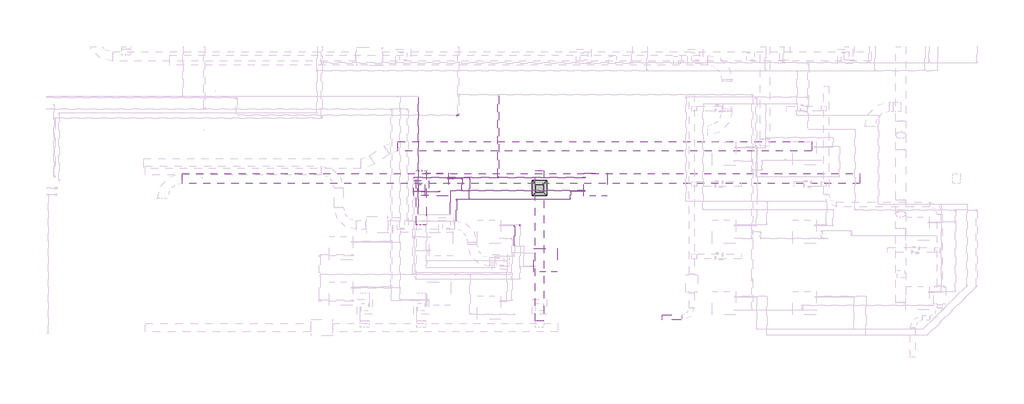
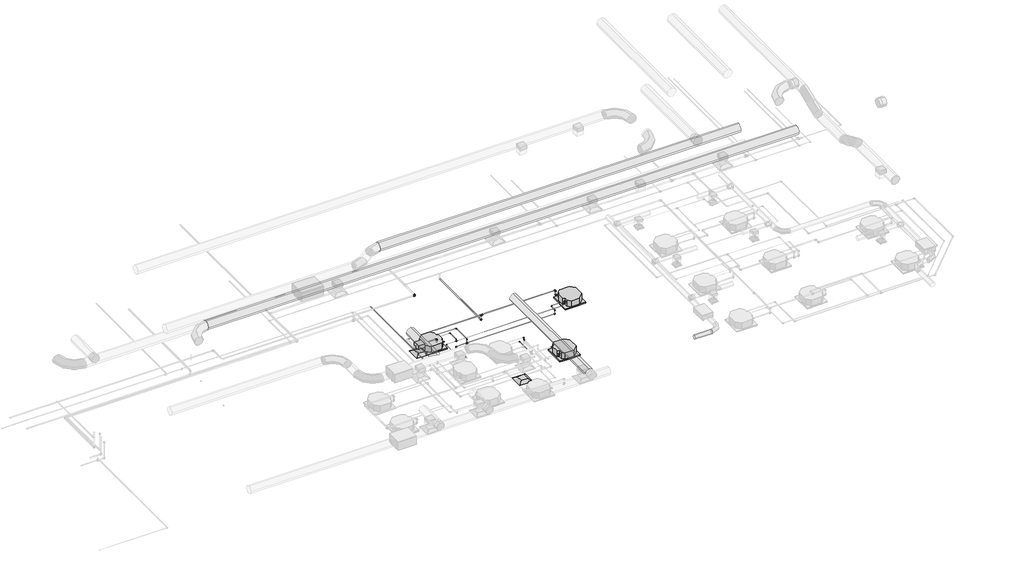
# One storey, part 8 of 21: 31 pipe fittings, 26 pipe segments, 6 duct segments, 3 proxies, 2 air terminals, 1 duct fitting.
"""IFC4 building model written with IfcOpenShell, lengths in millimetres."""

from ifc_helpers import new_model, si_unit, point, frame, frame_2d, origin, place, context, project, spatial, polyline, circle_curve, trimmed, segment, composite_curve, outline, extrude, transform, mapped, element, save
from components import air_terminal_ff221211, mechanical_equipment_53173f38, duct_fitting_95c1ddea, pipe_fitting_144f4440, pipe_fitting_14eb6376, pipe_fitting_c8e70db0, pipe_fitting_a5ff4f7d, pipe_fitting_660e7500, pipe_fitting_5aefb692, pipe_fitting_6af5823a, pipe_fitting_bc7f25b2, pipe_fitting_ac58fc96, pipe_fitting_25c7929a, pipe_fitting_89a6909e, pipe_fitting_c900cfc2, pipe_fitting_16c020f5, pipe_fitting_59d1f3e3, pipe_fitting_648138cd, pipe_fitting_da16c1b3, pipe_fitting_af483176, pipe_fitting_5a6d96d3, pipe_fitting_3e80353c

model = new_model("IFC4")

# Units and contexts
model_context = context("Model", 3, world=origin())
ifc_project = project(units=[si_unit("LENGTHUNIT", "METRE", prefix="MILLI")], contexts=[model_context])

# Site, building, storey
site = spatial("IfcSite", under=ifc_project)
building = spatial("IfcBuilding", under=site)
storey = spatial("IfcBuildingStorey", under=building, Name="Nível 1", Elevation=0.0)

# Air terminals
placement = place(None, origin())
air_terminal_shape = air_terminal_ff221211(model_context)
element("IfcAirTerminal", 1, ObjectType="M_Difusor de retorno : 600 x 600 Face 300 x 300 Conexão", at=placement, inside=storey, context=model_context, shape_type="MappedRepresentation", body=[
    mapped(air_terminal_shape, transform((8288.7294152, -3053.7697994, 3000.0), x_axis=(-1.0, 0.0, 0.0), y_axis=(0.0, -1.0, 0.0), z_axis=(0.0, 0.0, 1.0))),
])
element("IfcAirTerminal", 2, ObjectType="M_Difusor de fornecimento : 600 x 600 Face 300 x 300 Conexão", at=placement, inside=storey, context=model_context, shape_type="MappedRepresentation", body=[
    mapped(air_terminal_shape, transform((13079.0500257, -3053.7697994, 0.0), x_axis=(1.0, 0.0, 0.0), y_axis=(0.0, 1.0, 0.0), z_axis=(0.0, 0.0, 1.0))),
])

# Proxies
mechanical_equipment_shape = mechanical_equipment_53173f38(model_context)
element("IfcBuildingElementProxy", 3, Name="Midea_VRF_Indoor_4-way Cassette_MI-90(100,112,140)Q4_DHN1-D (2nd DC) : MI2-140Q4DHN1", ObjectType="Midea_VRF_Indoor_4-way Cassette_MI-90(100,112,140)Q4_DHN1-D (2nd DC) : MI2-140Q4DHN1", at=placement, inside=storey, context=model_context, shape_type="MappedRepresentation", body=[
    mapped(mechanical_equipment_shape, transform((15355.5954065, -2909.0130524, 3000.0), x_axis=(-1.0, 0.0, 0.0), y_axis=(0.0, -1.0, 0.0), z_axis=(0.0, 0.0, 1.0))),
])
element("IfcBuildingElementProxy", 4, Name="Midea_VRF_Indoor_4-way Cassette_MI-90(100,112,140)Q4_DHN1-D (2nd DC) : MI2-140Q4DHN1", ObjectType="Midea_VRF_Indoor_4-way Cassette_MI-90(100,112,140)Q4_DHN1-D (2nd DC) : MI2-140Q4DHN1", at=placement, inside=storey, context=model_context, shape_type="MappedRepresentation", body=[
    mapped(mechanical_equipment_shape, transform((8918.6436561, -2909.0130524, 3000.0), x_axis=(1.0, 0.0, 0.0), y_axis=(0.0, 1.0, 0.0), z_axis=(0.0, 0.0, 1.0))),
])
element("IfcBuildingElementProxy", 5, Name="Midea_VRF_Indoor_4-way Cassette_MI-90(100,112,140)Q4_DHN1-D (2nd DC) : MI2-140Q4DHN1", ObjectType="Midea_VRF_Indoor_4-way Cassette_MI-90(100,112,140)Q4_DHN1-D (2nd DC) : MI2-140Q4DHN1", at=placement, inside=storey, context=model_context, shape_type="MappedRepresentation", body=[
    mapped(mechanical_equipment_shape, transform((13324.5168986, -5974.366328, 3000.0), x_axis=(-1.0, 0.0, 0.0), y_axis=(0.0, -1.0, 0.0), z_axis=(0.0, 0.0, 1.0))),
])

# Duct fitting
duct_fitting_shape = duct_fitting_95c1ddea(model_context)
element("IfcDuctFitting", 6, ObjectType="M_Encaixe de duto retangular : Padrão", at=placement, inside=storey, context=model_context, shape_type="MappedRepresentation", body=[
    mapped(duct_fitting_shape, transform((8288.7294152, -3053.7697994, 3405.0), x_axis=(0.0, 0.0, -1.0), y_axis=(0.0, 1.0, 0.0), z_axis=(1.0, 0.0, 0.0))),
])

# Duct segments
element("IfcDuctSegment", 7, ObjectType="Torneiras / Raio curto", at=placement, inside=storey, context=model_context, shape_type="SweptSolid", body=[
    extrude(outline(composite_curve([segment(trimmed(circle_curve(frame_2d((3605.0, 13079.0500257)), 177.5), [point((3605.0, 13256.5500257))], [point((3782.5, 13079.0500257))], False, "CARTESIAN"), True, "CONTINUOUS"), segment(trimmed(circle_curve(frame_2d((3605.0, 13079.0500257)), 177.5), [point((3782.5, 13079.0500257))], [point((3605.0, 12901.5500257))], False, "CARTESIAN"), True, "CONTINUOUS"), segment(trimmed(circle_curve(frame_2d((3605.0, 13079.0500257)), 177.5), [point((3605.0, 12901.5500257))], [point((3427.5, 13079.0500257))], False, "CARTESIAN"), True, "CONTINUOUS"), segment(trimmed(circle_curve(frame_2d((3605.0, 13079.0500257)), 177.5), [point((3427.5, 13079.0500257))], [point((3605.0, 13256.5500257))], False, "CARTESIAN"), True, "CONTINUOUS")], self_intersect=False)), frame((0.0, -8432.3180027, 0.0), z_axis=(0.0, 1.0, 0.0), x_axis=(0.0, 0.0, 1.0)), (0.0, 0.0, 1.0), 6088.5482034),
])
element("IfcDuctSegment", 8, ObjectType="Torneiras / Raio curto", at=placement, inside=storey, context=model_context, shape_type="SweptSolid", body=[
    extrude(outline(composite_curve([segment(trimmed(circle_curve(frame_2d((-8298.7123683, 3521.0)), 99.5), [point((-8199.2123683, 3521.0))], [point((-8298.7123683, 3421.5))], False, "CARTESIAN"), True, "CONTINUOUS"), segment(trimmed(circle_curve(frame_2d((-8298.7123683, 3521.0)), 99.5), [point((-8298.7123683, 3421.5))], [point((-8398.2123683, 3521.0))], False, "CARTESIAN"), True, "CONTINUOUS"), segment(trimmed(circle_curve(frame_2d((-8298.7123683, 3521.0)), 99.5), [point((-8398.2123683, 3521.0))], [point((-8298.7123683, 3620.5))], False, "CARTESIAN"), True, "CONTINUOUS"), segment(trimmed(circle_curve(frame_2d((-8298.7123683, 3521.0)), 99.5), [point((-8298.7123683, 3620.5))], [point((-8199.2123683, 3521.0))], False, "CARTESIAN"), True, "CONTINUOUS")], self_intersect=False)), frame((18041.8789049, 0.0, 0.0), z_axis=(1.0, 0.0, 0.0), x_axis=(0.0, 1.0, 0.0)), (0.0, 0.0, 1.0), 802.0),
])
element("IfcDuctSegment", 9, ObjectType="Torneiras / Raio curto", at=placement, inside=storey, context=model_context, shape_type="SweptSolid", body=[
    extrude(outline(composite_curve([segment(trimmed(circle_curve(frame_2d((-2666.746009, 7501.0)), 200.0), [point((-2466.746009, 7501.0))], [point((-2666.746009, 7301.0))], False, "CARTESIAN"), True, "CONTINUOUS"), segment(trimmed(circle_curve(frame_2d((-2666.746009, 7501.0)), 200.0), [point((-2666.746009, 7301.0))], [point((-2866.746009, 7501.0))], False, "CARTESIAN"), True, "CONTINUOUS"), segment(trimmed(circle_curve(frame_2d((-2666.746009, 7501.0)), 200.0), [point((-2866.746009, 7501.0))], [point((-2666.746009, 7701.0))], False, "CARTESIAN"), True, "CONTINUOUS"), segment(trimmed(circle_curve(frame_2d((-2666.746009, 7501.0)), 200.0), [point((-2666.746009, 7701.0))], [point((-2466.746009, 7501.0))], False, "CARTESIAN"), True, "CONTINUOUS")], self_intersect=False)), frame((-1395.6317244, 0.0, 0.0), z_axis=(1.0, 0.0, 0.0), x_axis=(0.0, 1.0, 0.0)), (0.0, 0.0, 1.0), 27440.0),
])
element("IfcDuctSegment", 10, ObjectType="Torneiras / Raio curto", at=placement, inside=storey, context=model_context, shape_type="SweptSolid", body=[
    extrude(outline(composite_curve([segment(trimmed(circle_curve(frame_2d((-1359.3889752, 7501.0)), 200.0), [point((-1159.3889752, 7501.0))], [point((-1359.3889752, 7301.0))], False, "CARTESIAN"), True, "CONTINUOUS"), segment(trimmed(circle_curve(frame_2d((-1359.3889752, 7501.0)), 200.0), [point((-1359.3889752, 7301.0))], [point((-1559.3889752, 7501.0))], False, "CARTESIAN"), True, "CONTINUOUS"), segment(trimmed(circle_curve(frame_2d((-1359.3889752, 7501.0)), 200.0), [point((-1559.3889752, 7501.0))], [point((-1359.3889752, 7701.0))], False, "CARTESIAN"), True, "CONTINUOUS"), segment(trimmed(circle_curve(frame_2d((-1359.3889752, 7501.0)), 200.0), [point((-1359.3889752, 7701.0))], [point((-1159.3889752, 7501.0))], False, "CARTESIAN"), True, "CONTINUOUS")], self_intersect=False)), frame((7346.4468067, 0.0, 0.0), z_axis=(1.0, 0.0, 0.0), x_axis=(0.0, 1.0, 0.0)), (0.0, 0.0, 1.0), 16747.7609689),
])
element("IfcDuctSegment", 11, ObjectType="Torneiras / Raio curto", at=placement, inside=storey, context=model_context, shape_type="SweptSolid", body=[
    extrude(outline(composite_curve([segment(trimmed(circle_curve(frame_2d((3605.0, 8288.7294152)), 200.0), [point((3605.0, 8088.7294152))], [point((3405.0, 8288.7294152))], False, "CARTESIAN"), True, "CONTINUOUS"), segment(trimmed(circle_curve(frame_2d((3605.0, 8288.7294152)), 200.0), [point((3405.0, 8288.7294152))], [point((3605.0, 8488.7294152))], False, "CARTESIAN"), True, "CONTINUOUS"), segment(trimmed(circle_curve(frame_2d((3605.0, 8288.7294152)), 200.0), [point((3605.0, 8488.7294152))], [point((3805.0, 8288.7294152))], False, "CARTESIAN"), True, "CONTINUOUS"), segment(trimmed(circle_curve(frame_2d((3605.0, 8288.7294152)), 200.0), [point((3805.0, 8288.7294152))], [point((3605.0, 8088.7294152))], False, "CARTESIAN"), True, "CONTINUOUS")], self_intersect=False)), frame((0.0, -4543.7697994, 0.0), z_axis=(0.0, 1.0, 0.0), x_axis=(0.0, 0.0, 1.0)), (0.0, 0.0, 1.0), 2200.0),
])
element("IfcDuctSegment", 12, ObjectType="Raios cotovelos / torneiras", at=placement, inside=storey, context=model_context, shape_type="SweptSolid", body=[
    extrude(outline(polyline([(8138.7294152, -3203.7697994), (8138.7294152, -2903.7697994), (8438.7294152, -2903.7697994), (8438.7294152, -3203.7697994), (8138.7294152, -3203.7697994)])), frame((0.0, 0.0, 3101.6), z_axis=(0.0, 0.0, 1.0), x_axis=(1.0, 0.0, 0.0)), (0.0, 0.0, 1.0), 201.8),
])

# Pipe fittings
pipe_fitting_shape = pipe_fitting_144f4440(model_context)
element("IfcPipeFitting", 13, ObjectType="Cotovelo - PVC - CW : Padrão", at=placement, inside=storey, context=model_context, shape_type="MappedRepresentation", body=[
    mapped(pipe_fitting_shape, transform((14860.1956591, -2624.0130524, 3252.3085101), x_axis=(-1.0, 0.0, 0.0), y_axis=(0.0, 0.0, 1.0), z_axis=(0.0, 1.0, 0.0))),
])
element("IfcPipeFitting", 14, ObjectType="Cotovelo - PVC - CW : Padrão", at=placement, inside=storey, context=model_context, shape_type="MappedRepresentation", body=[
    mapped(pipe_fitting_shape, transform((14860.1956591, -2624.0130524, 3500.0), x_axis=(0.0, 0.0, 1.0), y_axis=(-1.0, 0.0, 0.0), z_axis=(0.0, -1.0, 0.0))),
])
element("IfcPipeFitting", 15, ObjectType="Cotovelo - PVC - CW : Padrão", at=placement, inside=storey, context=model_context, shape_type="MappedRepresentation", body=[
    mapped(pipe_fitting_shape, transform((9014.0434035, -3194.0130524, 3252.3085101), x_axis=(1.0, 0.0, 0.0), y_axis=(0.0, 0.0, 1.0), z_axis=(0.0, -1.0, 0.0))),
])
element("IfcPipeFitting", 16, ObjectType="Cotovelo - PVC - CW : Padrão", at=placement, inside=storey, context=model_context, shape_type="MappedRepresentation", body=[
    mapped(pipe_fitting_shape, transform((11415.2166257, -2624.0130524, 3252.3), x_axis=(0.0, 0.0, -1.0), y_axis=(0.0, 1.0, 0.0), z_axis=(1.0, 0.0, 0.0))),
])
pipe_fitting_2_shape = pipe_fitting_14eb6376(model_context)
element("IfcPipeFitting", 17, ObjectType="Tê de redução - PVC - CW : Padrão", at=placement, inside=storey, context=model_context, shape_type="MappedRepresentation", body=[
    mapped(pipe_fitting_2_shape, transform((11415.2166257, -2624.0130524, 3500.0), x_axis=(1.0, 0.0, 0.0), y_axis=(0.0, 0.0, 1.0), z_axis=(0.0, -1.0, 0.0))),
])
pipe_fitting_3_shape = pipe_fitting_c8e70db0(model_context)
element("IfcPipeFitting", 18, ObjectType="Cotovelo - PVC - CW : Padrão", at=placement, inside=storey, context=model_context, shape_type="MappedRepresentation", body=[
    mapped(pipe_fitting_3_shape, transform((9790.3015024, -98.5799867, 3500.0), x_axis=(0.9999999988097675, 0.0, -4.879000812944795e-05), y_axis=(0.0, 1.0, 0.0), z_axis=(4.879000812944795e-05, 0.0, 0.9999999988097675))),
])
pipe_fitting_4_shape = pipe_fitting_a5ff4f7d(model_context)
element("IfcPipeFitting", 19, ObjectType="Bucha de redução reta - Soldada - CU : Padrão", at=placement, inside=storey, context=model_context, shape_type="MappedRepresentation", body=[
    mapped(pipe_fitting_4_shape, transform((10243.643656, -3498.7799626, 3085.0282), x_axis=(0.0, 0.0, 1.0), y_axis=(-1.0, 0.0, 0.0), z_axis=(0.0, -1.0, 0.0))),
])
pipe_fitting_5_shape = pipe_fitting_660e7500(model_context)
element("IfcPipeFitting", 20, ObjectType="Tê - Soldado - CU : Padrão", at=placement, inside=storey, context=model_context, shape_type="MappedRepresentation", body=[
    mapped(pipe_fitting_5_shape, transform((10243.643656, -3498.7799626, 3052.3), x_axis=(-1.0, 0.0, 0.0), y_axis=(0.0, 0.0, -1.0), z_axis=(0.0, -1.0, 0.0))),
])
pipe_fitting_6_shape = pipe_fitting_5aefb692(model_context)
element("IfcPipeFitting", 21, ObjectType="Cotovelo - Soldado - CU : Padrão", at=placement, inside=storey, context=model_context, shape_type="MappedRepresentation", body=[
    mapped(pipe_fitting_6_shape, transform((9716.1752023, -3498.7799626, 3052.3), x_axis=(-1.0, 0.0, 0.0), y_axis=(0.0, -1.0, 0.0), z_axis=(0.0, 0.0, 1.0))),
])
pipe_fitting_7_shape = pipe_fitting_6af5823a(model_context)
element("IfcPipeFitting", 22, ObjectType="Bucha de redução reta - Soldada - CU : Padrão", at=placement, inside=storey, context=model_context, shape_type="MappedRepresentation", body=[
    mapped(pipe_fitting_7_shape, transform((9968.7271551, -3153.9203916, 3046.8), x_axis=(1.0, 0.0, 0.0), y_axis=(0.0, 1.0, 0.0), z_axis=(0.0, 0.0, 1.0))),
])
pipe_fitting_8_shape = pipe_fitting_bc7f25b2(model_context)
element("IfcPipeFitting", 23, ObjectType="Bucha de redução reta - Soldada - CU : Padrão", at=placement, inside=storey, context=model_context, shape_type="MappedRepresentation", body=[
    mapped(pipe_fitting_8_shape, transform((10276.390756, -3498.7799626, 3052.3), x_axis=(1.0, 0.0, 0.0), y_axis=(0.0, 1.0, 0.0), z_axis=(0.0, 0.0, 1.0))),
])
pipe_fitting_9_shape = pipe_fitting_ac58fc96(model_context)
element("IfcPipeFitting", 24, ObjectType="Cotovelo - Soldado - CU : Padrão", at=placement, inside=storey, context=model_context, shape_type="MappedRepresentation", body=[
    mapped(pipe_fitting_9_shape, transform((12282.5318023, -4543.7697994, 3253.9305136), x_axis=(0.0, 0.0, 1.0), y_axis=(-1.0, 0.0, 0.0), z_axis=(0.0, -1.0, 0.0))),
])
pipe_fitting_10_shape = pipe_fitting_25c7929a(model_context)
element("IfcPipeFitting", 25, ObjectType="Cotovelo - PVC - CW : Padrão", at=placement, inside=storey, context=model_context, shape_type="MappedRepresentation", body=[
    mapped(pipe_fitting_10_shape, transform((9014.0434035, -3194.0130524, 3499.9999657), x_axis=(0.0, 0.0, 1.0), y_axis=(-1.0, 0.0, 0.0), z_axis=(0.0, -1.0, 0.0))),
])
pipe_fitting_11_shape = pipe_fitting_89a6909e(model_context)
element("IfcPipeFitting", 26, ObjectType="Bucha de redução reta - Soldada - CU : Padrão", at=placement, inside=storey, context=model_context, shape_type="MappedRepresentation", body=[
    mapped(pipe_fitting_11_shape, transform((12282.5318023, -4572.7483994, 3152.3), x_axis=(0.0, -1.0, 0.0), y_axis=(1.0, 0.0, 0.0), z_axis=(0.0, 0.0, 1.0))),
])
pipe_fitting_12_shape = pipe_fitting_c900cfc2(model_context)
element("IfcPipeFitting", 27, ObjectType="Bucha de redução reta - Soldada - CU : Padrão", at=placement, inside=storey, context=model_context, shape_type="MappedRepresentation", body=[
    mapped(pipe_fitting_12_shape, transform((9343.6436561, -2635.8022388, 3252.3085101), x_axis=(1.0, 0.0, 0.0), y_axis=(0.0, 1.0, 0.0), z_axis=(0.0, 0.0, 1.0))),
])
element("IfcPipeFitting", 28, ObjectType="Bucha de redução reta - Soldada - CU : Padrão", at=placement, inside=storey, context=model_context, shape_type="MappedRepresentation", body=[
    mapped(pipe_fitting_12_shape, transform((14930.5954065, -3182.2238661, 3252.3085101), x_axis=(-1.0, 0.0, 0.0), y_axis=(0.0, -1.0, 0.0), z_axis=(0.0, 0.0, 1.0))),
])
pipe_fitting_13_shape = pipe_fitting_16c020f5(model_context)
element("IfcPipeFitting", 29, ObjectType="Cotovelo - Soldado - CU : Padrão", at=placement, inside=storey, context=model_context, shape_type="MappedRepresentation", body=[
    mapped(pipe_fitting_13_shape, transform((10243.643656, -3498.7799626, 3252.3), x_axis=(0.0, 0.0, 1.0), y_axis=(0.0, 1.0, 0.0), z_axis=(-1.0, 0.0, 0.0))),
])
element("IfcPipeFitting", 30, ObjectType="Cotovelo - Soldado - CU : Padrão", at=placement, inside=storey, context=model_context, shape_type="MappedRepresentation", body=[
    mapped(pipe_fitting_13_shape, transform((10243.643656, -2635.8022388, 3252.3), x_axis=(0.0, 1.0, 0.0), y_axis=(-0.9999999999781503, 0.0, 6.61056596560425e-06), z_axis=(6.61056596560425e-06, 0.0, 0.9999999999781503))),
])
element("IfcPipeFitting", 31, ObjectType="Cotovelo - Soldado - CU : Padrão", at=placement, inside=storey, context=model_context, shape_type="MappedRepresentation", body=[
    mapped(pipe_fitting_13_shape, transform((14330.5954066, -3182.2238661, 3252.3), x_axis=(-0.9999999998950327, 0.0, -1.4489115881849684e-05), y_axis=(0.0, -1.0, 0.0), z_axis=(-1.4489115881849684e-05, 0.0, 0.9999999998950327))),
])
element("IfcPipeFitting", 32, ObjectType="Cotovelo - Soldado - CU : Padrão", at=placement, inside=storey, context=model_context, shape_type="MappedRepresentation", body=[
    mapped(pipe_fitting_13_shape, transform((14330.5954066, -3498.7799626, 3252.3), x_axis=(0.0, -1.0, 0.0), y_axis=(0.0, 0.0, -1.0), z_axis=(1.0, 0.0, 0.0))),
])
element("IfcPipeFitting", 33, ObjectType="Cotovelo - Soldado - CU : Padrão", at=placement, inside=storey, context=model_context, shape_type="MappedRepresentation", body=[
    mapped(pipe_fitting_13_shape, transform((14330.5954066, -3498.7799626, 3052.3), x_axis=(0.0, 0.0, -1.0), y_axis=(-1.0, 0.0, 0.0), z_axis=(0.0, 1.0, 0.0))),
])
element("IfcPipeFitting", 34, ObjectType="Cotovelo - Soldado - CU : Padrão", at=placement, inside=storey, context=model_context, shape_type="MappedRepresentation", body=[
    mapped(pipe_fitting_13_shape, transform((12282.5318023, -4543.7697994, 3152.3), x_axis=(0.0, 0.0, -1.0), y_axis=(0.0, -1.0, 0.0), z_axis=(-1.0, 0.0, 0.0))),
])
pipe_fitting_14_shape = pipe_fitting_59d1f3e3(model_context)
element("IfcPipeFitting", 35, ObjectType="Bucha de redução reta - Soldada - CU : Padrão", at=placement, inside=storey, context=model_context, shape_type="MappedRepresentation", body=[
    mapped(pipe_fitting_14_shape, transform((9343.6436561, -2669.6046806, 3146.8446487), x_axis=(1.0, 0.0, 0.0), y_axis=(0.0, 1.0, 0.0), z_axis=(0.0, 0.0, 1.0))),
])
element("IfcPipeFitting", 36, ObjectType="Bucha de redução reta - Soldada - CU : Padrão", at=placement, inside=storey, context=model_context, shape_type="MappedRepresentation", body=[
    mapped(pipe_fitting_14_shape, transform((14930.5954065, -3148.4214243, 3146.8446487), x_axis=(-1.0, 0.0, 0.0), y_axis=(0.0, -1.0, 0.0), z_axis=(0.0, 0.0, 1.0))),
])
pipe_fitting_15_shape = pipe_fitting_648138cd(model_context)
element("IfcPipeFitting", 37, ObjectType="Cotovelo - Soldado - CU : Padrão", at=placement, inside=storey, context=model_context, shape_type="MappedRepresentation", body=[
    mapped(pipe_fitting_15_shape, transform((9943.6436551, -3153.9203916, 3146.8), x_axis=(0.0, 0.0, 1.0), y_axis=(0.0, 1.0, 0.0), z_axis=(-1.0, 0.0, 0.0))),
])
element("IfcPipeFitting", 38, ObjectType="Cotovelo - Soldado - CU : Padrão", at=placement, inside=storey, context=model_context, shape_type="MappedRepresentation", body=[
    mapped(pipe_fitting_15_shape, transform((9943.6436551, -2669.6046806, 3146.8), x_axis=(0.0, 1.0, 0.0), y_axis=(-0.9999999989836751, 0.0, 4.5084919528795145e-05), z_axis=(4.5084919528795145e-05, 0.0, 0.9999999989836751))),
])
element("IfcPipeFitting", 39, ObjectType="Cotovelo - Soldado - CU : Padrão", at=placement, inside=storey, context=model_context, shape_type="MappedRepresentation", body=[
    mapped(pipe_fitting_15_shape, transform((12062.5318047, -4577.5722412, 3146.8), x_axis=(0.0, 1.0, 0.0), y_axis=(-0.9999999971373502, 0.0, 7.56657105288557e-05), z_axis=(7.56657105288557e-05, 0.0, 0.9999999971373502))),
])
pipe_fitting_16_shape = pipe_fitting_da16c1b3(model_context)
element("IfcPipeFitting", 40, ObjectType="Tê - Soldado - CU : Padrão", at=placement, inside=storey, context=model_context, shape_type="MappedRepresentation", body=[
    mapped(pipe_fitting_16_shape, transform((9943.6436551, -3153.9203916, 3046.8), x_axis=(-1.0, 0.0, 0.0), y_axis=(0.0, 0.0, -1.0), z_axis=(0.0, -1.0, 0.0))),
])
pipe_fitting_17_shape = pipe_fitting_af483176(model_context)
element("IfcPipeFitting", 41, ObjectType="Bucha de redução reta - Soldada - CU : Padrão", at=placement, inside=storey, context=model_context, shape_type="MappedRepresentation", body=[
    mapped(pipe_fitting_17_shape, transform((12062.5318047, -4601.5978412, 3146.8), x_axis=(0.0, -1.0, 0.0), y_axis=(0.9999999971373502, 0.0, -7.56657105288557e-05), z_axis=(7.56657105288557e-05, 0.0, 0.9999999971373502))),
])
pipe_fitting_18_shape = pipe_fitting_5a6d96d3(model_context)
element("IfcPipeFitting", 42, ObjectType="Bucha de redução reta - Soldada - CU : Padrão", at=placement, inside=storey, context=model_context, shape_type="MappedRepresentation", body=[
    mapped(pipe_fitting_18_shape, transform((9943.6436551, -3153.9203916, 3071.817), x_axis=(0.0, 0.0, 1.0), y_axis=(-1.0, 0.0, 0.0), z_axis=(0.0, -1.0, 0.0))),
])
pipe_fitting_19_shape = pipe_fitting_3e80353c(model_context)
element("IfcPipeFitting", 43, ObjectType="Cotovelo - Soldado - CU : Padrão", at=placement, inside=storey, context=model_context, shape_type="MappedRepresentation", body=[
    mapped(pipe_fitting_19_shape, transform((9466.1005867, -3153.9203916, 3046.8), x_axis=(-1.0, 0.0, 0.0), y_axis=(0.0, -1.0, 0.0), z_axis=(0.0, 0.0, 1.0))),
])

# Pipe segments
element("IfcPipeSegment", 44, ObjectType="Tubos de cobre HVAC", at=placement, inside=storey, context=model_context, shape_type="SweptSolid", body=[
    extrude(outline(composite_curve([segment(trimmed(circle_curve(frame_2d((3052.3, 9716.1752023)), 11.11), [point((3052.3, 9727.2852023))], [point((3063.41, 9716.1752023))], False, "CARTESIAN"), True, "CONTINUOUS"), segment(trimmed(circle_curve(frame_2d((3052.3, 9716.1752023)), 11.11), [point((3063.41, 9716.1752023))], [point((3052.3, 9705.0652023))], False, "CARTESIAN"), True, "CONTINUOUS"), segment(trimmed(circle_curve(frame_2d((3052.3, 9716.1752023)), 11.11), [point((3052.3, 9705.0652023))], [point((3041.19, 9716.1752023))], False, "CARTESIAN"), True, "CONTINUOUS"), segment(trimmed(circle_curve(frame_2d((3052.3, 9716.1752023)), 11.11), [point((3041.19, 9716.1752023))], [point((3052.3, 9727.2852023))], False, "CARTESIAN"), True, "CONTINUOUS")], self_intersect=False)), frame((0.0, -4364.8483626, 0.0), z_axis=(0.0, 1.0, 0.0), x_axis=(0.0, 0.0, 1.0)), (0.0, 0.0, 1.0), 832.1368),
])
element("IfcPipeSegment", 45, ObjectType="Tubos de cobre HVAC", at=placement, inside=storey, context=model_context, shape_type="SweptSolid", body=[
    extrude(outline(composite_curve([segment(trimmed(circle_curve(frame_2d((-3498.7799626, 3052.3)), 7.935), [point((-3506.7149626, 3052.3))], [point((-3498.7799626, 3060.235))], False, "CARTESIAN"), True, "CONTINUOUS"), segment(trimmed(circle_curve(frame_2d((-3498.7799626, 3052.3)), 7.935), [point((-3498.7799626, 3060.235))], [point((-3490.8449626, 3052.3))], False, "CARTESIAN"), True, "CONTINUOUS"), segment(trimmed(circle_curve(frame_2d((-3498.7799626, 3052.3)), 7.935), [point((-3490.8449626, 3052.3))], [point((-3498.7799626, 3044.365))], False, "CARTESIAN"), True, "CONTINUOUS"), segment(trimmed(circle_curve(frame_2d((-3498.7799626, 3052.3)), 7.935), [point((-3498.7799626, 3044.365))], [point((-3506.7149626, 3052.3))], False, "CARTESIAN"), True, "CONTINUOUS")], self_intersect=False)), frame((10289.049656, 0.0, 0.0), z_axis=(1.0, 0.0, 0.0), x_axis=(0.0, 1.0, 0.0)), (0.0, 0.0, 1.0), 4012.5671506),
])
element("IfcPipeSegment", 46, ObjectType="Tubos de cobre HVAC", at=placement, inside=storey, context=model_context, shape_type="SweptSolid", body=[
    extrude(outline(composite_curve([segment(trimmed(circle_curve(frame_2d((3046.8, 8166.1005867)), 6.35), [point((3046.8, 8159.7505867))], [point((3040.45, 8166.1005867))], False, "CARTESIAN"), True, "CONTINUOUS"), segment(trimmed(circle_curve(frame_2d((3046.8, 8166.1005867)), 6.35), [point((3040.45, 8166.1005867))], [point((3046.8, 8172.4505867))], False, "CARTESIAN"), True, "CONTINUOUS"), segment(trimmed(circle_curve(frame_2d((3046.8, 8166.1005867)), 6.35), [point((3046.8, 8172.4505867))], [point((3053.15, 8166.1005867))], False, "CARTESIAN"), True, "CONTINUOUS"), segment(trimmed(circle_curve(frame_2d((3046.8, 8166.1005867)), 6.35), [point((3053.15, 8166.1005867))], [point((3046.8, 8159.7505867))], False, "CARTESIAN"), True, "CONTINUOUS")], self_intersect=False)), frame((0.0, -4107.4143916, 0.0), z_axis=(0.0, 1.0, 0.0), x_axis=(0.0, 0.0, 1.0)), (0.0, 0.0, 1.0), 4746.988),
])
element("IfcPipeSegment", 47, ObjectType="Tubos de cobre HVAC", at=placement, inside=storey, context=model_context, shape_type="SweptSolid", body=[
    extrude(outline(composite_curve([segment(trimmed(circle_curve(frame_2d((3046.8, 9466.1005867)), 6.35), [point((3046.8, 9472.4505867))], [point((3053.15, 9466.1005867))], False, "CARTESIAN"), True, "CONTINUOUS"), segment(trimmed(circle_curve(frame_2d((3046.8, 9466.1005867)), 6.35), [point((3053.15, 9466.1005867))], [point((3046.8, 9459.7505867))], False, "CARTESIAN"), True, "CONTINUOUS"), segment(trimmed(circle_curve(frame_2d((3046.8, 9466.1005867)), 6.35), [point((3046.8, 9459.7505867))], [point((3040.45, 9466.1005867))], False, "CARTESIAN"), True, "CONTINUOUS"), segment(trimmed(circle_curve(frame_2d((3046.8, 9466.1005867)), 6.35), [point((3040.45, 9466.1005867))], [point((3046.8, 9472.4505867))], False, "CARTESIAN"), True, "CONTINUOUS")], self_intersect=False)), frame((0.0, -4107.4143916, 0.0), z_axis=(0.0, 1.0, 0.0), x_axis=(0.0, 0.0, 1.0)), (0.0, 0.0, 1.0), 926.988),
])
element("IfcPipeSegment", 48, ObjectType="Tubos de cobre HVAC", at=placement, inside=storey, context=model_context, shape_type="SweptSolid", body=[
    extrude(outline(composite_curve([segment(trimmed(circle_curve(frame_2d((-3153.9203916, 3046.8)), 4.76), [point((-3158.6803916, 3046.8))], [point((-3153.9203916, 3051.56))], False, "CARTESIAN"), True, "CONTINUOUS"), segment(trimmed(circle_curve(frame_2d((-3153.9203916, 3046.8)), 4.76), [point((-3153.9203916, 3051.56))], [point((-3149.1603916, 3046.8))], False, "CARTESIAN"), True, "CONTINUOUS"), segment(trimmed(circle_curve(frame_2d((-3153.9203916, 3046.8)), 4.76), [point((-3149.1603916, 3046.8))], [point((-3153.9203916, 3042.04))], False, "CARTESIAN"), True, "CONTINUOUS"), segment(trimmed(circle_curve(frame_2d((-3153.9203916, 3046.8)), 4.76), [point((-3153.9203916, 3042.04))], [point((-3158.6803916, 3046.8))], False, "CARTESIAN"), True, "CONTINUOUS")], self_intersect=False)), frame((9978.4015551, 0.0, 0.0), z_axis=(1.0, 0.0, 0.0), x_axis=(0.0, 1.0, 0.0)), (0.0, 0.0, 1.0), 4940.0),
])
element("IfcPipeSegment", 49, ObjectType="Tubos de cobre HVAC", at=placement, inside=storey, context=model_context, shape_type="SweptSolid", body=[
    extrude(outline(composite_curve([segment(trimmed(circle_curve(frame_2d((0.0, -7.935)), 7.935), [point((-7.935, -7.935))], [point((0.0, 0.0))], False, "CARTESIAN"), True, "CONTINUOUS"), segment(trimmed(circle_curve(frame_2d((0.0, -7.935)), 7.935), [point((0.0, 0.0))], [point((7.935, -7.935))], False, "CARTESIAN"), True, "CONTINUOUS"), segment(trimmed(circle_curve(frame_2d((0.0, -7.935)), 7.935), [point((7.935, -7.935))], [point((0.0, -15.87))], False, "CARTESIAN"), True, "CONTINUOUS"), segment(trimmed(circle_curve(frame_2d((0.0, -7.935)), 7.935), [point((0.0, -15.87))], [point((-7.935, -7.935))], False, "CARTESIAN"), True, "CONTINUOUS")], self_intersect=False)), frame((10214.6649791, -2635.8022388, 3244.3651916), z_axis=(-0.9999999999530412, 0.0, 9.69111343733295e-06), x_axis=(0.0, 1.0, 0.0)), (0.0, 0.0, 1.0), 858.3625),
])
element("IfcPipeSegment", 50, ObjectType="Tubos de cobre HVAC", at=placement, inside=storey, context=model_context, shape_type="SweptSolid", body=[
    extrude(outline(composite_curve([segment(trimmed(circle_curve(frame_2d((3252.3, 10243.643656)), 7.935), [point((3252.3, 10251.578656))], [point((3260.235, 10243.643656))], False, "CARTESIAN"), True, "CONTINUOUS"), segment(trimmed(circle_curve(frame_2d((3252.3, 10243.643656)), 7.935), [point((3260.235, 10243.643656))], [point((3252.3, 10235.708656))], False, "CARTESIAN"), True, "CONTINUOUS"), segment(trimmed(circle_curve(frame_2d((3252.3, 10243.643656)), 7.935), [point((3252.3, 10235.708656))], [point((3244.365, 10243.643656))], False, "CARTESIAN"), True, "CONTINUOUS"), segment(trimmed(circle_curve(frame_2d((3252.3, 10243.643656)), 7.935), [point((3244.365, 10243.643656))], [point((3252.3, 10251.578656))], False, "CARTESIAN"), True, "CONTINUOUS")], self_intersect=False)), frame((0.0, -3469.8013626, 0.0), z_axis=(0.0, 1.0, 0.0), x_axis=(0.0, 0.0, 1.0)), (0.0, 0.0, 1.0), 805.0205239),
])
element("IfcPipeSegment", 51, ObjectType="Tubos de cobre HVAC", at=placement, inside=storey, context=model_context, shape_type="SweptSolid", body=[
    extrude(outline(composite_curve([segment(trimmed(circle_curve(frame_2d((10243.643656, -3498.7799626)), 7.935), [point((10235.708656, -3498.7799626))], [point((10243.643656, -3490.8449626))], False, "CARTESIAN"), True, "CONTINUOUS"), segment(trimmed(circle_curve(frame_2d((10243.643656, -3498.7799626)), 7.935), [point((10243.643656, -3490.8449626))], [point((10251.578656, -3498.7799626))], False, "CARTESIAN"), True, "CONTINUOUS"), segment(trimmed(circle_curve(frame_2d((10243.643656, -3498.7799626)), 7.935), [point((10251.578656, -3498.7799626))], [point((10243.643656, -3506.7149626))], False, "CARTESIAN"), True, "CONTINUOUS"), segment(trimmed(circle_curve(frame_2d((10243.643656, -3498.7799626)), 7.935), [point((10243.643656, -3506.7149626))], [point((10235.708656, -3498.7799626))], False, "CARTESIAN"), True, "CONTINUOUS")], self_intersect=False)), frame((0.0, 0.0, 3097.6871), z_axis=(0.0, 0.0, 1.0), x_axis=(1.0, 0.0, 0.0)), (0.0, 0.0, 1.0), 125.6343),
])
element("IfcPipeSegment", 52, ObjectType="Tubos de cobre HVAC", at=placement, inside=storey, context=model_context, shape_type="SweptSolid", body=[
    extrude(outline(composite_curve([segment(trimmed(circle_curve(frame_2d((-3498.7799626, 3052.3)), 11.11), [point((-3509.8899626, 3052.3))], [point((-3498.7799626, 3063.41))], False, "CARTESIAN"), True, "CONTINUOUS"), segment(trimmed(circle_curve(frame_2d((-3498.7799626, 3052.3)), 11.11), [point((-3498.7799626, 3063.41))], [point((-3487.6699626, 3052.3))], False, "CARTESIAN"), True, "CONTINUOUS"), segment(trimmed(circle_curve(frame_2d((-3498.7799626, 3052.3)), 11.11), [point((-3487.6699626, 3052.3))], [point((-3498.7799626, 3041.19))], False, "CARTESIAN"), True, "CONTINUOUS"), segment(trimmed(circle_curve(frame_2d((-3498.7799626, 3052.3)), 11.11), [point((-3498.7799626, 3041.19))], [point((-3509.8899626, 3052.3))], False, "CARTESIAN"), True, "CONTINUOUS")], self_intersect=False)), frame((9750.1068023, 0.0, 0.0), z_axis=(1.0, 0.0, 0.0), x_axis=(0.0, 1.0, 0.0)), (0.0, 0.0, 1.0), 460.7897537),
])
element("IfcPipeSegment", 53, ObjectType="Tubos de cobre HVAC", at=placement, inside=storey, context=model_context, shape_type="SweptSolid", body=[
    extrude(outline(composite_curve([segment(trimmed(circle_curve(frame_2d((0.0, -4.76)), 4.76), [point((-4.76, -4.76))], [point((0.0, 0.0))], False, "CARTESIAN"), True, "CONTINUOUS"), segment(trimmed(circle_curve(frame_2d((0.0, -4.76)), 4.76), [point((0.0, 0.0))], [point((4.76, -4.76))], False, "CARTESIAN"), True, "CONTINUOUS"), segment(trimmed(circle_curve(frame_2d((0.0, -4.76)), 4.76), [point((4.76, -4.76))], [point((0.0, -9.52))], False, "CARTESIAN"), True, "CONTINUOUS"), segment(trimmed(circle_curve(frame_2d((0.0, -4.76)), 4.76), [point((0.0, -9.52))], [point((-4.76, -4.76))], False, "CARTESIAN"), True, "CONTINUOUS")], self_intersect=False)), frame((9919.6176889, -2669.6046806, 3142.0410832), z_axis=(-0.9999999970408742, 0.0, 7.693017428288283e-05), x_axis=(0.0, 1.0, 0.0)), (0.0, 0.0, 1.0), 566.3000007),
])
element("IfcPipeSegment", 54, ObjectType="Tubos de cobre HVAC", at=placement, inside=storey, context=model_context, shape_type="SweptSolid", body=[
    extrude(outline(composite_curve([segment(trimmed(circle_curve(frame_2d((3146.8, 9943.6436551)), 4.76), [point((3146.8, 9948.4036551))], [point((3151.56, 9943.6436551))], False, "CARTESIAN"), True, "CONTINUOUS"), segment(trimmed(circle_curve(frame_2d((3146.8, 9943.6436551)), 4.76), [point((3151.56, 9943.6436551))], [point((3146.8, 9938.8836551))], False, "CARTESIAN"), True, "CONTINUOUS"), segment(trimmed(circle_curve(frame_2d((3146.8, 9943.6436551)), 4.76), [point((3146.8, 9938.8836551))], [point((3142.04, 9943.6436551))], False, "CARTESIAN"), True, "CONTINUOUS"), segment(trimmed(circle_curve(frame_2d((3146.8, 9943.6436551)), 4.76), [point((3142.04, 9943.6436551))], [point((3146.8, 9948.4036551))], False, "CARTESIAN"), True, "CONTINUOUS")], self_intersect=False)), frame((0.0, -3129.8947916, 0.0), z_axis=(0.0, 1.0, 0.0), x_axis=(0.0, 0.0, 1.0)), (0.0, 0.0, 1.0), 436.264511),
])
element("IfcPipeSegment", 55, ObjectType="Tubos de cobre HVAC", at=placement, inside=storey, context=model_context, shape_type="SweptSolid", body=[
    extrude(outline(composite_curve([segment(trimmed(circle_curve(frame_2d((9943.6436551, -3153.9203916)), 4.76), [point((9938.8836551, -3153.9203916))], [point((9943.6436551, -3149.1603916))], False, "CARTESIAN"), True, "CONTINUOUS"), segment(trimmed(circle_curve(frame_2d((9943.6436551, -3153.9203916)), 4.76), [point((9943.6436551, -3149.1603916))], [point((9948.4036551, -3153.9203916))], False, "CARTESIAN"), True, "CONTINUOUS"), segment(trimmed(circle_curve(frame_2d((9943.6436551, -3153.9203916)), 4.76), [point((9948.4036551, -3153.9203916))], [point((9943.6436551, -3158.6803916))], False, "CARTESIAN"), True, "CONTINUOUS"), segment(trimmed(circle_curve(frame_2d((9943.6436551, -3153.9203916)), 4.76), [point((9943.6436551, -3158.6803916))], [point((9938.8836551, -3153.9203916))], False, "CARTESIAN"), True, "CONTINUOUS")], self_intersect=False)), frame((0.0, 0.0, 3081.4914), z_axis=(0.0, 0.0, 1.0), x_axis=(1.0, 0.0, 0.0)), (0.0, 0.0, 1.0), 41.283),
])
element("IfcPipeSegment", 56, ObjectType="Tubos de cobre HVAC", at=placement, inside=storey, context=model_context, shape_type="SweptSolid", body=[
    extrude(outline(composite_curve([segment(trimmed(circle_curve(frame_2d((-3153.9203916, 3046.8)), 6.35), [point((-3160.2703916, 3046.8))], [point((-3153.9203916, 3053.15))], False, "CARTESIAN"), True, "CONTINUOUS"), segment(trimmed(circle_curve(frame_2d((-3153.9203916, 3046.8)), 6.35), [point((-3153.9203916, 3053.15))], [point((-3147.5703916, 3046.8))], False, "CARTESIAN"), True, "CONTINUOUS"), segment(trimmed(circle_curve(frame_2d((-3153.9203916, 3046.8)), 6.35), [point((-3147.5703916, 3046.8))], [point((-3153.9203916, 3040.45))], False, "CARTESIAN"), True, "CONTINUOUS"), segment(trimmed(circle_curve(frame_2d((-3153.9203916, 3046.8)), 6.35), [point((-3153.9203916, 3040.45))], [point((-3160.2703916, 3046.8))], False, "CARTESIAN"), True, "CONTINUOUS")], self_intersect=False)), frame((9492.6065867, 0.0, 0.0), z_axis=(1.0, 0.0, 0.0), x_axis=(0.0, 1.0, 0.0)), (0.0, 0.0, 1.0), 425.9535683),
])
element("IfcPipeSegment", 57, ObjectType="Tubos de cobre HVAC", at=placement, inside=storey, context=model_context, shape_type="SweptSolid", body=[
    extrude(outline(composite_curve([segment(trimmed(circle_curve(frame_2d((0.0, -7.935)), 7.935), [point((-7.935, -7.935))], [point((0.0, 0.0))], False, "CARTESIAN"), True, "CONTINUOUS"), segment(trimmed(circle_curve(frame_2d((0.0, -7.935)), 7.935), [point((0.0, 0.0))], [point((7.935, -7.935))], False, "CARTESIAN"), True, "CONTINUOUS"), segment(trimmed(circle_curve(frame_2d((0.0, -7.935)), 7.935), [point((7.935, -7.935))], [point((0.0, -15.87))], False, "CARTESIAN"), True, "CONTINUOUS"), segment(trimmed(circle_curve(frame_2d((0.0, -7.935)), 7.935), [point((0.0, -15.87))], [point((-7.935, -7.935))], False, "CARTESIAN"), True, "CONTINUOUS")], self_intersect=False)), frame((14359.5741215, -3182.2238661, 3244.3654199), z_axis=(0.9999999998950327, 0.0, 1.4489115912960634e-05), x_axis=(0.0, -1.0, 0.0)), (0.0, 0.0, 1.0), 558.3625),
])
element("IfcPipeSegment", 58, ObjectType="Tubos de cobre HVAC", at=placement, inside=storey, context=model_context, shape_type="SweptSolid", body=[
    extrude(outline(composite_curve([segment(trimmed(circle_curve(frame_2d((3252.3, 14330.5954066)), 7.935), [point((3252.3, 14322.6604066))], [point((3244.365, 14330.5954066))], False, "CARTESIAN"), True, "CONTINUOUS"), segment(trimmed(circle_curve(frame_2d((3252.3, 14330.5954066)), 7.935), [point((3244.365, 14330.5954066))], [point((3252.3, 14338.5304066))], False, "CARTESIAN"), True, "CONTINUOUS"), segment(trimmed(circle_curve(frame_2d((3252.3, 14330.5954066)), 7.935), [point((3252.3, 14338.5304066))], [point((3260.235, 14330.5954066))], False, "CARTESIAN"), True, "CONTINUOUS"), segment(trimmed(circle_curve(frame_2d((3252.3, 14330.5954066)), 7.935), [point((3260.235, 14330.5954066))], [point((3252.3, 14322.6604066))], False, "CARTESIAN"), True, "CONTINUOUS")], self_intersect=False)), frame((0.0, -3469.8013626, 0.0), z_axis=(0.0, 1.0, 0.0), x_axis=(0.0, 0.0, 1.0)), (0.0, 0.0, 1.0), 258.5988965),
])
element("IfcPipeSegment", 59, ObjectType="Tubos de cobre HVAC", at=placement, inside=storey, context=model_context, shape_type="SweptSolid", body=[
    extrude(outline(composite_curve([segment(trimmed(circle_curve(frame_2d((14330.5954066, -3498.7799626)), 7.935), [point((14338.5304066, -3498.7799626))], [point((14330.5954066, -3506.7149626))], False, "CARTESIAN"), True, "CONTINUOUS"), segment(trimmed(circle_curve(frame_2d((14330.5954066, -3498.7799626)), 7.935), [point((14330.5954066, -3506.7149626))], [point((14322.6604066, -3498.7799626))], False, "CARTESIAN"), True, "CONTINUOUS"), segment(trimmed(circle_curve(frame_2d((14330.5954066, -3498.7799626)), 7.935), [point((14322.6604066, -3498.7799626))], [point((14330.5954066, -3490.8449626))], False, "CARTESIAN"), True, "CONTINUOUS"), segment(trimmed(circle_curve(frame_2d((14330.5954066, -3498.7799626)), 7.935), [point((14330.5954066, -3490.8449626))], [point((14338.5304066, -3498.7799626))], False, "CARTESIAN"), True, "CONTINUOUS")], self_intersect=False)), frame((0.0, 0.0, 3081.2786), z_axis=(0.0, 0.0, 1.0), x_axis=(1.0, 0.0, 0.0)), (0.0, 0.0, 1.0), 142.0428),
])
element("IfcPipeSegment", 60, ObjectType="Tubos de cobre HVAC", at=placement, inside=storey, context=model_context, shape_type="SweptSolid", body=[
    extrude(outline(composite_curve([segment(trimmed(circle_curve(frame_2d((12282.5318023, -4543.7697994)), 7.935), [point((12274.5968023, -4543.7697994))], [point((12282.5318023, -4535.8347994))], False, "CARTESIAN"), True, "CONTINUOUS"), segment(trimmed(circle_curve(frame_2d((12282.5318023, -4543.7697994)), 7.935), [point((12282.5318023, -4535.8347994))], [point((12290.4668023, -4543.7697994))], False, "CARTESIAN"), True, "CONTINUOUS"), segment(trimmed(circle_curve(frame_2d((12282.5318023, -4543.7697994)), 7.935), [point((12290.4668023, -4543.7697994))], [point((12282.5318023, -4551.7047994))], False, "CARTESIAN"), True, "CONTINUOUS"), segment(trimmed(circle_curve(frame_2d((12282.5318023, -4543.7697994)), 7.935), [point((12282.5318023, -4551.7047994))], [point((12274.5968023, -4543.7697994))], False, "CARTESIAN"), True, "CONTINUOUS")], self_intersect=False)), frame((0.0, 0.0, 3181.2786), z_axis=(0.0, 0.0, 1.0), x_axis=(1.0, 0.0, 0.0)), (0.0, 0.0, 1.0), 43.6733136),
])
element("IfcPipeSegment", 61, ObjectType="Plástico", at=placement, inside=storey, context=model_context, shape_type="SweptSolid", body=[
    extrude(outline(composite_curve([segment(trimmed(circle_curve(frame_2d((-2624.0130524, 3500.0)), 20.0), [point((-2604.0130524, 3500.0))], [point((-2624.0130524, 3480.0))], False, "CARTESIAN"), True, "CONTINUOUS"), segment(trimmed(circle_curve(frame_2d((-2624.0130524, 3500.0)), 20.0), [point((-2624.0130524, 3480.0))], [point((-2644.0130524, 3500.0))], False, "CARTESIAN"), True, "CONTINUOUS"), segment(trimmed(circle_curve(frame_2d((-2624.0130524, 3500.0)), 20.0), [point((-2644.0130524, 3500.0))], [point((-2624.0130524, 3520.0))], False, "CARTESIAN"), True, "CONTINUOUS"), segment(trimmed(circle_curve(frame_2d((-2624.0130524, 3500.0)), 20.0), [point((-2624.0130524, 3520.0))], [point((-2604.0130524, 3500.0))], False, "CARTESIAN"), True, "CONTINUOUS")], self_intersect=False)), frame((8015.2375924, 0.0, 0.0), z_axis=(1.0, 0.0, 0.0), x_axis=(0.0, 1.0, 0.0)), (0.0, 0.0, 1.0), 3356.7290333),
])
element("IfcPipeSegment", 62, ObjectType="Plástico", at=placement, inside=storey, context=model_context, shape_type="SweptSolid", body=[
    extrude(outline(composite_curve([segment(trimmed(circle_curve(frame_2d((-2624.0130524, 3252.3085101)), 20.0), [point((-2604.0130524, 3252.3085101))], [point((-2624.0130524, 3232.3085101))], False, "CARTESIAN"), True, "CONTINUOUS"), segment(trimmed(circle_curve(frame_2d((-2624.0130524, 3252.3085101)), 20.0), [point((-2624.0130524, 3232.3085101))], [point((-2644.0130524, 3252.3085101))], False, "CARTESIAN"), True, "CONTINUOUS"), segment(trimmed(circle_curve(frame_2d((-2624.0130524, 3252.3085101)), 20.0), [point((-2644.0130524, 3252.3085101))], [point((-2624.0130524, 3272.3085101))], False, "CARTESIAN"), True, "CONTINUOUS"), segment(trimmed(circle_curve(frame_2d((-2624.0130524, 3252.3085101)), 20.0), [point((-2624.0130524, 3272.3085101))], [point((-2604.0130524, 3252.3085101))], False, "CARTESIAN"), True, "CONTINUOUS")], self_intersect=False)), frame((14905.1956591, 0.0, 0.0), z_axis=(1.0, 0.0, 0.0), x_axis=(0.0, 1.0, 0.0)), (0.0, 0.0, 1.0), 25.3997474),
])
element("IfcPipeSegment", 63, ObjectType="Plástico", at=placement, inside=storey, context=model_context, shape_type="SweptSolid", body=[
    extrude(outline(composite_curve([segment(trimmed(circle_curve(frame_2d((14860.1956591, -2624.0130524)), 20.0), [point((14840.1956591, -2624.0130524))], [point((14860.1956591, -2604.0130524))], False, "CARTESIAN"), True, "CONTINUOUS"), segment(trimmed(circle_curve(frame_2d((14860.1956591, -2624.0130524)), 20.0), [point((14860.1956591, -2604.0130524))], [point((14880.1956591, -2624.0130524))], False, "CARTESIAN"), True, "CONTINUOUS"), segment(trimmed(circle_curve(frame_2d((14860.1956591, -2624.0130524)), 20.0), [point((14880.1956591, -2624.0130524))], [point((14860.1956591, -2644.0130524))], False, "CARTESIAN"), True, "CONTINUOUS"), segment(trimmed(circle_curve(frame_2d((14860.1956591, -2624.0130524)), 20.0), [point((14860.1956591, -2644.0130524))], [point((14840.1956591, -2624.0130524))], False, "CARTESIAN"), True, "CONTINUOUS")], self_intersect=False)), frame((0.0, 0.0, 3297.3085101), z_axis=(0.0, 0.0, 1.0), x_axis=(1.0, 0.0, 0.0)), (0.0, 0.0, 1.0), 157.6914899),
])
element("IfcPipeSegment", 64, ObjectType="Plástico", at=placement, inside=storey, context=model_context, shape_type="SweptSolid", body=[
    extrude(outline(composite_curve([segment(trimmed(circle_curve(frame_2d((-3194.0130524, 3500.0007287)), 20.0), [point((-3214.0130524, 3500.0007287))], [point((-3194.0130524, 3520.0007287))], False, "CARTESIAN"), True, "CONTINUOUS"), segment(trimmed(circle_curve(frame_2d((-3194.0130524, 3500.0007287)), 20.0), [point((-3194.0130524, 3520.0007287))], [point((-3174.0130524, 3500.0007287))], False, "CARTESIAN"), True, "CONTINUOUS"), segment(trimmed(circle_curve(frame_2d((-3194.0130524, 3500.0007287)), 20.0), [point((-3174.0130524, 3500.0007287))], [point((-3194.0130524, 3480.0007287))], False, "CARTESIAN"), True, "CONTINUOUS"), segment(trimmed(circle_curve(frame_2d((-3194.0130524, 3500.0007287)), 20.0), [point((-3194.0130524, 3480.0007287))], [point((-3214.0130524, 3500.0007287))], False, "CARTESIAN"), True, "CONTINUOUS")], self_intersect=False)), frame((8014.2375924, 0.0, 0.0), z_axis=(1.0, 0.0, 0.0), x_axis=(0.0, 1.0, 0.0)), (0.0, 0.0, 1.0), 954.8058111),
])
element("IfcPipeSegment", 65, ObjectType="Plástico", at=placement, inside=storey, context=model_context, shape_type="SweptSolid", body=[
    extrude(outline(composite_curve([segment(trimmed(circle_curve(frame_2d((9014.0434035, -3194.0130524)), 20.0), [point((8994.0434035, -3194.0130524))], [point((9014.0434035, -3174.0130524))], False, "CARTESIAN"), True, "CONTINUOUS"), segment(trimmed(circle_curve(frame_2d((9014.0434035, -3194.0130524)), 20.0), [point((9014.0434035, -3174.0130524))], [point((9034.0434035, -3194.0130524))], False, "CARTESIAN"), True, "CONTINUOUS"), segment(trimmed(circle_curve(frame_2d((9014.0434035, -3194.0130524)), 20.0), [point((9034.0434035, -3194.0130524))], [point((9014.0434035, -3214.0130524))], False, "CARTESIAN"), True, "CONTINUOUS"), segment(trimmed(circle_curve(frame_2d((9014.0434035, -3194.0130524)), 20.0), [point((9014.0434035, -3214.0130524))], [point((8994.0434035, -3194.0130524))], False, "CARTESIAN"), True, "CONTINUOUS")], self_intersect=False)), frame((0.0, 0.0, 3297.3085101), z_axis=(0.0, 0.0, 1.0), x_axis=(1.0, 0.0, 0.0)), (0.0, 0.0, 1.0), 157.6914899),
])
element("IfcPipeSegment", 66, ObjectType="Plástico", at=placement, inside=storey, context=model_context, shape_type="SweptSolid", body=[
    extrude(outline(composite_curve([segment(trimmed(circle_curve(frame_2d((3252.3, 11415.2166257)), 20.0), [point((3252.3, 11395.2166257))], [point((3232.3, 11415.2166257))], False, "CARTESIAN"), True, "CONTINUOUS"), segment(trimmed(circle_curve(frame_2d((3252.3, 11415.2166257)), 20.0), [point((3232.3, 11415.2166257))], [point((3252.3, 11435.2166257))], False, "CARTESIAN"), True, "CONTINUOUS"), segment(trimmed(circle_curve(frame_2d((3252.3, 11415.2166257)), 20.0), [point((3252.3, 11435.2166257))], [point((3272.3, 11415.2166257))], False, "CARTESIAN"), True, "CONTINUOUS"), segment(trimmed(circle_curve(frame_2d((3252.3, 11415.2166257)), 20.0), [point((3272.3, 11415.2166257))], [point((3252.3, 11395.2166257))], False, "CARTESIAN"), True, "CONTINUOUS")], self_intersect=False)), frame((0.0, -2579.0130524, 0.0), z_axis=(0.0, 1.0, 0.0), x_axis=(0.0, 0.0, 1.0)), (0.0, 0.0, 1.0), 3266.1890303),
])
element("IfcPipeSegment", 67, ObjectType="Plástico", at=placement, inside=storey, context=model_context, shape_type="SweptSolid", body=[
    extrude(outline(composite_curve([segment(trimmed(circle_curve(frame_2d((11415.2166257, -2624.0130524)), 20.0), [point((11435.2166257, -2624.0130524))], [point((11415.2166257, -2644.0130524))], False, "CARTESIAN"), True, "CONTINUOUS"), segment(trimmed(circle_curve(frame_2d((11415.2166257, -2624.0130524)), 20.0), [point((11415.2166257, -2644.0130524))], [point((11395.2166257, -2624.0130524))], False, "CARTESIAN"), True, "CONTINUOUS"), segment(trimmed(circle_curve(frame_2d((11415.2166257, -2624.0130524)), 20.0), [point((11395.2166257, -2624.0130524))], [point((11415.2166257, -2604.0130524))], False, "CARTESIAN"), True, "CONTINUOUS"), segment(trimmed(circle_curve(frame_2d((11415.2166257, -2624.0130524)), 20.0), [point((11415.2166257, -2604.0130524))], [point((11435.2166257, -2624.0130524))], False, "CARTESIAN"), True, "CONTINUOUS")], self_intersect=False)), frame((0.0, 0.0, 3297.3), z_axis=(0.0, 0.0, 1.0), x_axis=(1.0, 0.0, 0.0)), (0.0, 0.0, 1.0), 158.7),
])
element("IfcPipeSegment", 68, ObjectType="Plástico", at=placement, inside=storey, context=model_context, shape_type="SweptSolid", body=[
    extrude(outline(composite_curve([segment(trimmed(circle_curve(frame_2d((-2624.0130524, 3500.0)), 20.0), [point((-2604.0130524, 3500.0))], [point((-2624.0130524, 3480.0))], False, "CARTESIAN"), True, "CONTINUOUS"), segment(trimmed(circle_curve(frame_2d((-2624.0130524, 3500.0)), 20.0), [point((-2624.0130524, 3480.0))], [point((-2644.0130524, 3500.0))], False, "CARTESIAN"), True, "CONTINUOUS"), segment(trimmed(circle_curve(frame_2d((-2624.0130524, 3500.0)), 20.0), [point((-2644.0130524, 3500.0))], [point((-2624.0130524, 3520.0))], False, "CARTESIAN"), True, "CONTINUOUS"), segment(trimmed(circle_curve(frame_2d((-2624.0130524, 3500.0)), 20.0), [point((-2624.0130524, 3520.0))], [point((-2604.0130524, 3500.0))], False, "CARTESIAN"), True, "CONTINUOUS")], self_intersect=False)), frame((11458.4666257, 0.0, 0.0), z_axis=(1.0, 0.0, 0.0), x_axis=(0.0, 1.0, 0.0)), (0.0, 0.0, 1.0), 3356.7290333),
])
element("IfcPipeSegment", 69, ObjectType="Tubos de cobre HVAC", at=placement, inside=storey, context=model_context, shape_type="SweptSolid", body=[
    extrude(outline(composite_curve([segment(trimmed(circle_curve(frame_2d((3146.8, 12062.5318047)), 6.35), [point((3146.8, 12068.8818047))], [point((3153.15, 12062.5318047))], False, "CARTESIAN"), True, "CONTINUOUS"), segment(trimmed(circle_curve(frame_2d((3146.8, 12062.5318047)), 6.35), [point((3153.15, 12062.5318047))], [point((3146.8, 12056.1818047))], False, "CARTESIAN"), True, "CONTINUOUS"), segment(trimmed(circle_curve(frame_2d((3146.8, 12062.5318047)), 6.35), [point((3146.8, 12056.1818047))], [point((3140.45, 12062.5318047))], False, "CARTESIAN"), True, "CONTINUOUS"), segment(trimmed(circle_curve(frame_2d((3146.8, 12062.5318047)), 6.35), [point((3140.45, 12062.5318047))], [point((3146.8, 12068.8818047))], False, "CARTESIAN"), True, "CONTINUOUS")], self_intersect=False)), frame((0.0, -5388.6911998, 0.0), z_axis=(0.0, 1.0, 0.0), x_axis=(0.0, 0.0, 1.0)), (0.0, 0.0, 1.0), 777.4189586),
])

save(model, "model.ifc")
